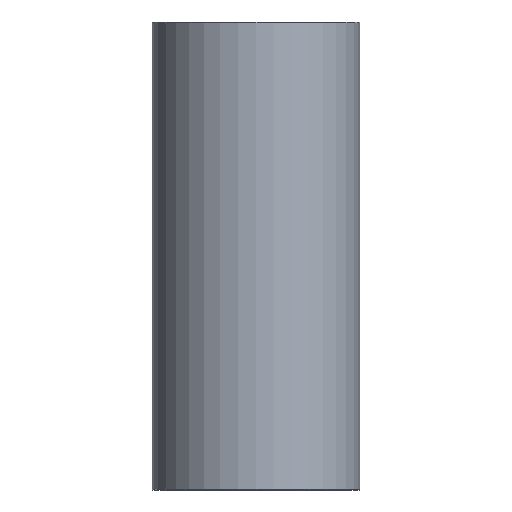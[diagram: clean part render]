
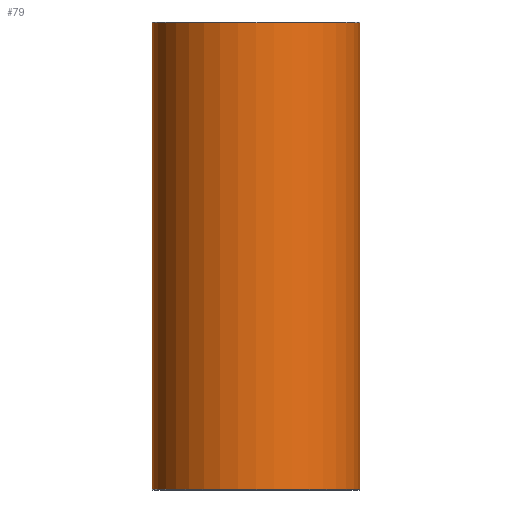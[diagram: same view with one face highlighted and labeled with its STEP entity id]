
A CAD part, front view. The second image highlights one B-rep face of the part: STEP entity #79.
In plain terms, the highlighted cylindrical face has radius 35.5 mm (diameter 71 mm), a full revolution.
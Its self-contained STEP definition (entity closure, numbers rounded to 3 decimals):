
#79=ADVANCED_FACE('',(#96,#97),#98,.T.);
#96=FACE_OUTER_BOUND('',#120,.T.);
#97=FACE_OUTER_BOUND('',#121,.T.);
#98=CYLINDRICAL_SURFACE('',#122,35.5);
#120=EDGE_LOOP('',(#152));
#121=EDGE_LOOP('',(#153));
#122=AXIS2_PLACEMENT_3D('',#154,#155,#156);
#152=ORIENTED_EDGE('',*,*,#178,.T.);
#153=ORIENTED_EDGE('',*,*,#177,.T.);
#154=CARTESIAN_POINT('',(0.0,0.0,160.0));
#155=DIRECTION('',(0.0,0.0,-1.0));
#156=DIRECTION('',(-1.0,0.0,0.0));
#177=EDGE_CURVE('',#190,#190,#191,.T.);
#178=EDGE_CURVE('',#192,#192,#193,.F.);
#190=VERTEX_POINT('',#206);
#191=CIRCLE('',#207,35.5);
#192=VERTEX_POINT('',#208);
#193=CIRCLE('',#209,35.5);
#206=CARTESIAN_POINT('',(35.5,0.0,0.2));
#207=AXIS2_PLACEMENT_3D('',#227,#228,#229);
#208=CARTESIAN_POINT('',(35.5,0.,159.8));
#209=AXIS2_PLACEMENT_3D('',#230,#231,#232);
#227=CARTESIAN_POINT('',(0.0,0.0,0.2));
#228=DIRECTION('',(0.0,0.0,1.0));
#229=DIRECTION('',(1.0,0.0,0.0));
#230=CARTESIAN_POINT('',(0.0,0.0,159.8));
#231=DIRECTION('',(0.0,0.0,1.0));
#232=DIRECTION('',(1.0,0.0,0.0));
